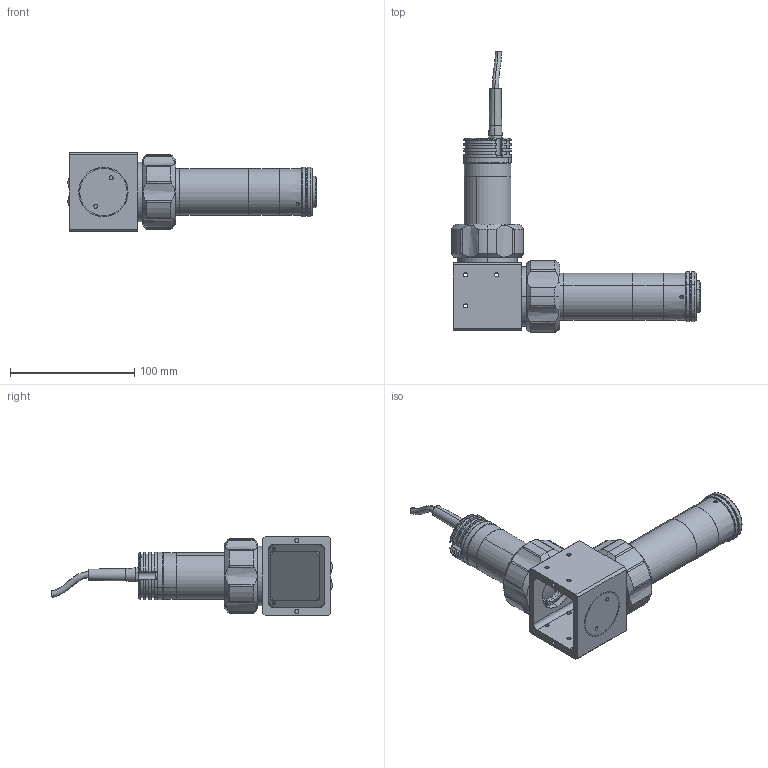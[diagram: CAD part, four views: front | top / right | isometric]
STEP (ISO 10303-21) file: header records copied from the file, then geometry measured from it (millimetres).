
FILE_DESCRIPTION(('LS-TCL-0424'),'2;1');
FILE_NAME('LS-TCL-0424.stp','2026-10-15T21:57:01',('LumaSpec Vision'),('LumaSpec Vision'),'LumaSpec Vision','LumaSpec Vision','');
FILE_SCHEMA(('AUTOMOTIVE_DESIGN { 1 0 10303 214 1 1 1 1 }'));
Length unit declared in the file: millimetre
Products named in the file (384): LumaSpec Vision
Assembly tree (383 placements, depth 2):
  LumaSpec Vision
    LumaSpec Vision
    LumaSpec Vision
    LumaSpec Vision
    LumaSpec Vision
    LumaSpec Vision
    LumaSpec Vision
    LumaSpec Vision
    LumaSpec Vision
    LumaSpec Vision
    LumaSpec Vision
    LumaSpec Vision
    LumaSpec Vision
    LumaSpec Vision
    LumaSpec Vision
    LumaSpec Vision
    LumaSpec Vision
    LumaSpec Vision
    LumaSpec Vision
    LumaSpec Vision
    LumaSpec Vision
    LumaSpec Vision
    LumaSpec Vision
    LumaSpec Vision
    LumaSpec Vision
    LumaSpec Vision
    LumaSpec Vision
    LumaSpec Vision
    LumaSpec Vision
    LumaSpec Vision
    LumaSpec Vision
    LumaSpec Vision
    LumaSpec Vision
    LumaSpec Vision
    LumaSpec Vision
    LumaSpec Vision
    LumaSpec Vision
    LumaSpec Vision
    LumaSpec Vision
    LumaSpec Vision
    LumaSpec Vision
    LumaSpec Vision
    LumaSpec Vision
    LumaSpec Vision
    LumaSpec Vision
    LumaSpec Vision
    LumaSpec Vision
    LumaSpec Vision
    LumaSpec Vision
    LumaSpec Vision
    LumaSpec Vision
    LumaSpec Vision
    LumaSpec Vision
    LumaSpec Vision
    LumaSpec Vision
    LumaSpec Vision
    LumaSpec Vision
    LumaSpec Vision
    LumaSpec Vision
    LumaSpec Vision
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Bounding box: 200.28 x 226.28 x 64 mm (x, y, z)
Surface area: 83130 mm2 (no closed solid volume)
Topology: 0 solids, 383 shells, 383 faces, 8139 edges, 8134 vertices
Faces by surface type: revolution 226, bspline 157
Entity records: 134225 total; most frequent: CARTESIAN_POINT 55674, B_SPLINE_CURVE_WITH_KNOTS 14814, ORIENTED_EDGE 8134, EDGE_CURVE 8134, VERTEX_POINT 8134, SURFACE_CURVE 8134, PCURVE 8134, DEFINITIONAL_REPRESENTATION 8134
